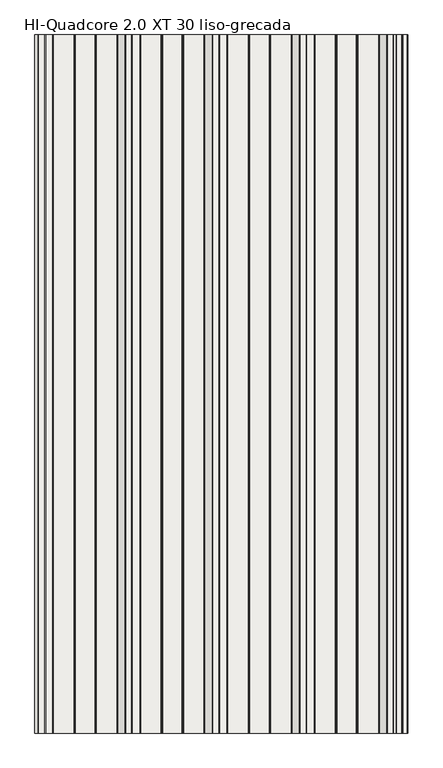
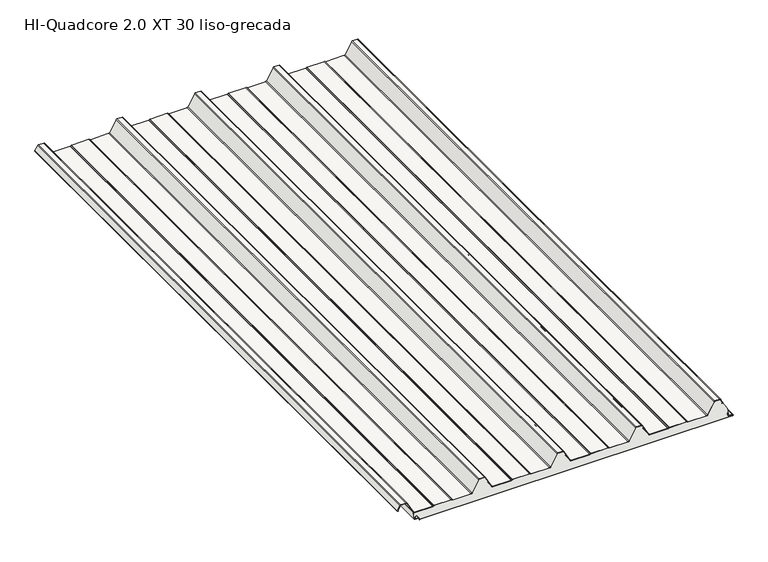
"""IFC4 building model written with IfcOpenShell, lengths in millimetres: slab geometry, HI_QuadCore2.0XT-XT DUAL : HI-Quadcore 2.0 XT 30 liso-grecada."""

from ifc_helpers import new_model, si_unit, point, frame, frame_2d, origin, place, context, project, spatial, polyline, circle_curve, trimmed, segment, composite_curve, outline, extrude, source, transform, mapped, element, save
from ifc_brep_helpers import plane_surface, cylinder_surface, revolved_surface, advanced_brep


def hi_quadcore_2_0_xt_30_liso_grecada_d6f32195(model_context):
    return source(origin(), model_context, "Body", "SolidModel", [
        advanced_brep(
        [(1186.4313891, 0.0, 13.3795578), (1185.8456418, 0.0, 11.9654043), (1185.8456037, 0.0, 8.2995811), (1187.6996787, 0.0, 6.328543), (1198.1077232, 0.0, 5.5663871), (1199.9032632, 0.0, 3.5769209), (1199.9033076, 0.0, 1.9756011), (1201.903363, 0.0, -0.0243435), (2197.9162803, 0.0, 0.003269), (2199.9046779, 0.0, 2.0032908), (2199.904653, 0.0, 2.9012893), (2198.0077486, 0.0, 4.8985749), (2186.1928118, 0.0, 5.7933732), (2184.3438482, 0.0, 7.7876066), (2184.3437386, 0.0, 11.7402379), (2183.757913, 0.0, 13.1544352), (2182.3436602, 0.0, 14.5686095), (2181.7779748, 0.0, 14.0029241), (2183.1922433, 0.0, 12.5887341), (2183.5437386, 0.0, 11.7402157), (2183.5438482, 0.0, 7.7875844), (2186.1323972, 0.0, 4.9956577), (2197.958132, 0.0, 4.1000416), (2199.104653, 0.0, 2.9012672), (2199.1046779, 0.0, 2.0032686), (2197.9136554, 0.0, 0.8032689), (1201.9033408, 0.0, 0.7756565), (1200.7033076, 0.0, 1.9756233), (1200.7032632, 0.0, 3.5769431), (1198.1768616, 0.0, 6.3634663), (1187.7581044, 0.0, 7.1264067), (1186.6457428, 0.0, 8.3231689), (1186.6456418, 0.0, 11.965396), (1186.9970902, 0.0, 12.8138881), (1189.1032183, 0.0, 14.920133), (1188.5375329, 0.0, 15.4858184), (1186.4313891, 2000.0, 13.3795578), (1188.5375329, 2000.0, 15.4858184), (1189.1032183, 2000.0, 14.920133), (1186.9970902, 2000.0, 12.8138881), (1186.6456418, 2000.0, 11.965396), (1186.6456037, 2000.0, 8.2995728), (1187.7581044, 2000.0, 7.1264067), (1198.1768616, 2000.0, 6.3634663), (1200.7032632, 2000.0, 3.5769431), (1200.7033076, 2000.0, 1.9756233), (1201.9033408, 2000.0, 0.7756565), (2197.9136554, 2000.0, 0.8032689), (2199.1046779, 2000.0, 2.0032686), (2199.104653, 2000.0, 2.9012672), (2197.958132, 2000.0, 4.1000416), (2186.1323972, 2000.0, 4.9956577), (2183.5438482, 2000.0, 7.7875844), (2183.5437386, 2000.0, 11.7402157), (2183.1922433, 2000.0, 12.5887341), (2181.7779748, 2000.0, 14.0029241), (2182.3436602, 2000.0, 14.5686095), (2183.757913, 2000.0, 13.1544352), (2184.3437386, 2000.0, 11.7402379), (2184.3438482, 2000.0, 7.7876066), (2186.1928118, 2000.0, 5.7933732), (2198.0077486, 2000.0, 4.8985749), (2199.904653, 2000.0, 2.9012893), (2199.9046779, 2000.0, 2.0032908), (2197.9162803, 2000.0, 0.003269), (1201.903363, 2000.0, -0.0243435), (1199.9033076, 2000.0, 1.9756011), (1199.9032632, 2000.0, 3.5769209), (1198.1077232, 2000.0, 5.5663871), (1187.6996787, 2000.0, 6.328543), (1185.8457428, 2000.0, 8.3231467), (1185.8456418, 2000.0, 11.9654043)],
        [
            (0, 1, circle_curve(frame((1187.8456418, 0.0, 11.9653834), z_axis=(0.0, -1.0, 0.0), x_axis=(1.0, 0.0, 0.0)), 2.0)),
            (1, 2),
            (2, 3, circle_curve(frame((1187.8457428, 0.0, 8.3232022), z_axis=(0.0, -1.0, 0.0), x_axis=(1.0, 0.0, 0.0)), 2.0)),
            (3, 4),
            (4, 5, circle_curve(frame((1197.9032632, 0.0, 3.5768655), z_axis=(0.0, 1.0, 0.0), x_axis=(1.0, 0.0, 0.0)), 2.0)),
            (5, 6),
            (6, 7, circle_curve(frame((1201.9033076, 0.0, 1.9756565), z_axis=(0.0, -1.0, 0.0), x_axis=(1.0, 0.0, 0.0)), 2.0)),
            (7, 8),
            (8, 9, circle_curve(frame((2197.9046779, 0.0, 2.0032353), z_axis=(0.0, -1.0, 0.0), x_axis=(1.0, 0.0, 0.0)), 2.0)),
            (9, 10),
            (10, 11, circle_curve(frame((2197.904653, 0.0, 2.9012339), z_axis=(0.0, -1.0, 0.0), x_axis=(1.0, 0.0, 0.0)), 2.0)),
            (11, 12),
            (12, 13, circle_curve(frame((2186.3438482, 0.0, 7.7876621), z_axis=(0.0, 1.0, 0.0), x_axis=(1.0, 0.0, 0.0)), 2.0)),
            (13, 14),
            (14, 15, circle_curve(frame((2182.3437386, 0.0, 11.7401824), z_axis=(0.0, -1.0, 0.0), x_axis=(1.0, 0.0, 0.0)), 2.0)),
            (15, 16),
            (16, 17),
            (17, 18),
            (18, 19, circle_curve(frame((2182.3437386, 0.0, 11.7401824), z_axis=(0.0, 1.0, 0.0), x_axis=(1.0, 0.0, 0.0)), 1.2)),
            (19, 20),
            (20, 21, circle_curve(frame((2186.3438482, 0.0, 7.7876621), z_axis=(0.0, -1.0, 0.0), x_axis=(1.0, 0.0, 0.0)), 2.8)),
            (21, 22),
            (22, 23, circle_curve(frame((2197.904653, 0.0, 2.9012339), z_axis=(0.0, 1.0, 0.0), x_axis=(1.0, 0.0, 0.0)), 1.2)),
            (23, 24),
            (24, 25, circle_curve(frame((2197.9046779, 0.0, 2.0032353), z_axis=(0.0, 1.0, 0.0), x_axis=(1.0, 0.0, 0.0)), 1.2)),
            (25, 26),
            (26, 27, circle_curve(frame((1201.9033076, 0.0, 1.9756565), z_axis=(0.0, 1.0, 0.0), x_axis=(1.0, 0.0, 0.0)), 1.2)),
            (27, 28),
            (28, 29, circle_curve(frame((1197.9032632, 0.0, 3.5768655), z_axis=(0.0, -1.0, 0.0), x_axis=(1.0, 0.0, 0.0)), 2.8)),
            (29, 30),
            (30, 31, circle_curve(frame((1187.8457428, 0.0, 8.3232022), z_axis=(0.0, 1.0, 0.0), x_axis=(1.0, 0.0, 0.0)), 1.2)),
            (31, 32),
            (32, 33, circle_curve(frame((1187.8456418, 0.0, 11.9653834), z_axis=(0.0, 1.0, 0.0), x_axis=(1.0, 0.0, 0.0)), 1.2)),
            (33, 34),
            (34, 35),
            (35, 0),
            (36, 37),
            (37, 38),
            (38, 39),
            (39, 40, circle_curve(frame((1187.8456418, 2000.0, 11.9653834), z_axis=(0.0, -1.0, 0.0), x_axis=(1.0, 0.0, 0.0)), 1.2)),
            (40, 41),
            (41, 42, circle_curve(frame((1187.8457428, 2000.0, 8.3232022), z_axis=(0.0, -1.0, 0.0), x_axis=(1.0, 0.0, 0.0)), 1.2)),
            (42, 43),
            (43, 44, circle_curve(frame((1197.9032632, 2000.0, 3.5768655), z_axis=(0.0, 1.0, 0.0), x_axis=(1.0, 0.0, 0.0)), 2.8)),
            (44, 45),
            (45, 46, circle_curve(frame((1201.9033076, 2000.0, 1.9756565), z_axis=(0.0, -1.0, 0.0), x_axis=(1.0, 0.0, 0.0)), 1.2)),
            (46, 47),
            (47, 48, circle_curve(frame((2197.9046779, 2000.0, 2.0032353), z_axis=(0.0, -1.0, 0.0), x_axis=(1.0, 0.0, 0.0)), 1.2)),
            (48, 49),
            (49, 50, circle_curve(frame((2197.904653, 2000.0, 2.9012339), z_axis=(0.0, -1.0, 0.0), x_axis=(1.0, 0.0, 0.0)), 1.2)),
            (50, 51),
            (51, 52, circle_curve(frame((2186.3438482, 2000.0, 7.7876621), z_axis=(0.0, 1.0, 0.0), x_axis=(1.0, 0.0, 0.0)), 2.8)),
            (52, 53),
            (53, 54, circle_curve(frame((2182.3437386, 2000.0, 11.7401824), z_axis=(0.0, -1.0, 0.0), x_axis=(1.0, 0.0, 0.0)), 1.2)),
            (54, 55),
            (55, 56),
            (56, 57),
            (57, 58, circle_curve(frame((2182.3437386, 2000.0, 11.7401824), z_axis=(0.0, 1.0, 0.0), x_axis=(1.0, 0.0, 0.0)), 2.0)),
            (58, 59),
            (59, 60, circle_curve(frame((2186.3438482, 2000.0, 7.7876621), z_axis=(0.0, -1.0, 0.0), x_axis=(1.0, 0.0, 0.0)), 2.0)),
            (60, 61),
            (61, 62, circle_curve(frame((2197.904653, 2000.0, 2.9012339), z_axis=(0.0, 1.0, 0.0), x_axis=(1.0, 0.0, 0.0)), 2.0)),
            (62, 63),
            (63, 64, circle_curve(frame((2197.9046779, 2000.0, 2.0032353), z_axis=(0.0, 1.0, 0.0), x_axis=(1.0, 0.0, 0.0)), 2.0)),
            (64, 65),
            (65, 66, circle_curve(frame((1201.9033076, 2000.0, 1.9756565), z_axis=(0.0, 1.0, 0.0), x_axis=(1.0, 0.0, 0.0)), 2.0)),
            (66, 67),
            (67, 68, circle_curve(frame((1197.9032632, 2000.0, 3.5768655), z_axis=(0.0, -1.0, 0.0), x_axis=(1.0, 0.0, 0.0)), 2.0)),
            (68, 69),
            (69, 70, circle_curve(frame((1187.8457428, 2000.0, 8.3232022), z_axis=(0.0, 1.0, 0.0), x_axis=(1.0, 0.0, 0.0)), 2.0)),
            (70, 71),
            (71, 36, circle_curve(frame((1187.8456418, 2000.0, 11.9653834), z_axis=(0.0, 1.0, 0.0), x_axis=(1.0, 0.0, 0.0)), 2.0)),
            (0, 36),
            (71, 1),
            (70, 2),
            (69, 3),
            (68, 4),
            (67, 5),
            (66, 6),
            (65, 7),
            (64, 8),
            (63, 9),
            (62, 10),
            (61, 11),
            (60, 12),
            (59, 13),
            (58, 14),
            (57, 15),
            (56, 16),
            (55, 17),
            (54, 18),
            (53, 19),
            (52, 20),
            (51, 21),
            (50, 22),
            (49, 23),
            (48, 24),
            (47, 25),
            (46, 26),
            (45, 27),
            (44, 28),
            (43, 29),
            (42, 30),
            (41, 31),
            (40, 32),
            (39, 33),
            (38, 34),
            (37, 35),
        ],
        [
            plane_surface(frame((1189.8456418, 0.0, 11.9653834), z_axis=(0.0, -1.0, 0.0), x_axis=(0.0, 0.0, 1.0))),
            plane_surface(frame((1189.8456418, 2000.0, 11.9653834), z_axis=(0.0, 1.0, 0.0), x_axis=(0.0, 0.0, -1.0))),
            cylinder_surface(frame((1187.8456418, 2000.0, 11.9653834), z_axis=(0.0, -1.0, 0.0), x_axis=(1.0, 0.0, 0.0)), 2.0),
            plane_surface(frame((1185.8456418, 0.0, 11.9654043), z_axis=(-0.9999999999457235, 0.0, 1.041887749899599e-05), x_axis=(0.0, 1.0, 0.0))),
            cylinder_surface(frame((1187.8457428, 2000.0, 8.3232022), z_axis=(0.0, -1.0, 0.0), x_axis=(1.0, 0.0, 0.0)), 2.0),
            plane_surface(frame((1187.6996787, 0.0, 6.328543), z_axis=(-0.07303203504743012, 0.0, -0.9973295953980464), x_axis=(0.0, 1.0, 0.0))),
            revolved_surface(polyline([(1199.9032632, 2000.0, 3.5768655), (1199.9032632, 0.0, 3.5768655)]), (1197.9032632, 2000.0, 3.5768655), (0.0, 1.0, 0.0)),
            plane_surface(frame((1199.9032632, 0.0, 3.5769209), z_axis=(-0.9999999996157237, 0.0, -2.7722781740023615e-05), x_axis=(0.0, 1.0, 0.0))),
            cylinder_surface(frame((1201.9033076, 2000.0, 1.9756565), z_axis=(0.0, -1.0, 0.0), x_axis=(1.0, 0.0, 0.0)), 2.0),
            plane_surface(frame((1201.903363, 0.0, -0.0243435), z_axis=(2.772298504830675e-05, 0.0, -0.9999999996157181), x_axis=(0.0, 1.0, 0.0))),
            cylinder_surface(frame((2197.9046779, 2000.0, 2.0032353), z_axis=(0.0, -1.0, 0.0), x_axis=(1.0, 0.0, 0.0)), 2.0),
            plane_surface(frame((2199.9046779, 0.0, 2.0032908), z_axis=(0.9999999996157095, 0.0, 2.7723295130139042e-05), x_axis=(0.0, 1.0, 0.0))),
            cylinder_surface(frame((2197.904653, 2000.0, 2.9012339), z_axis=(0.0, -1.0, 0.0), x_axis=(1.0, 0.0, 0.0)), 2.0),
            plane_surface(frame((2198.0077486, 0.0, 4.8985749), z_axis=(0.07551822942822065, 0.0, 0.9971444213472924), x_axis=(0.0, 1.0, 0.0))),
            revolved_surface(polyline([(2188.3438482, 2000.0, 7.7876621), (2188.3438482, 0.0, 7.7876621)]), (2186.3438482, 2000.0, 7.7876621), (0.0, 1.0, 0.0)),
            plane_surface(frame((2184.3438482, 0.0, 7.7876066), z_axis=(0.9999999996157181, 0.0, 2.7722984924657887e-05), x_axis=(0.0, 1.0, 0.0))),
            cylinder_surface(frame((2182.3437386, 2000.0, 11.7401824), z_axis=(0.0, -1.0, 0.0), x_axis=(1.0, 0.0, 0.0)), 2.0),
            plane_surface(frame((2183.757913, 0.0, 13.1544352), z_axis=(0.7070871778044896, 0.0, 0.7071263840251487), x_axis=(0.0, 1.0, 0.0))),
            plane_surface(frame((2182.3436602, 0.0, 14.5686095), z_axis=(-0.7071067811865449, 0.0, 0.7071067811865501), x_axis=(0.0, 1.0, 0.0))),
            plane_surface(frame((2181.7779748, 0.0, 14.0029241), z_axis=(-0.7070871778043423, 0.0, -0.707126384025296), x_axis=(0.0, 1.0, 0.0))),
            revolved_surface(polyline([(2183.5437386, 2000.0, 11.7401824), (2183.5437386, 0.0, 11.7401824)]), (2182.3437386, 2000.0, 11.7401824), (0.0, 1.0, 0.0)),
            plane_surface(frame((2183.5437386, 0.0, 11.7402157), z_axis=(-0.9999999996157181, 0.0, -2.7722985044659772e-05), x_axis=(0.0, 1.0, 0.0))),
            cylinder_surface(frame((2186.3438482, 2000.0, 7.7876621), z_axis=(0.0, -1.0, 0.0), x_axis=(1.0, 0.0, 0.0)), 2.8),
            plane_surface(frame((2186.1323972, 0.0, 4.9956577), z_axis=(-0.07551822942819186, 0.0, -0.9971444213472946), x_axis=(0.0, 1.0, 0.0))),
            revolved_surface(polyline([(2199.104653, 2000.0, 2.9012339), (2199.104653, 0.0, 2.9012339)]), (2197.904653, 2000.0, 2.9012339), (0.0, 1.0, 0.0)),
            plane_surface(frame((2199.104653, 0.0, 2.9012672), z_axis=(-0.9999999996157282, 0.0, -2.7722622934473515e-05), x_axis=(0.0, 1.0, 0.0))),
            revolved_surface(polyline([(2199.1046779, 2000.0, 2.0032353), (2199.1046779, 0.0, 2.0032353)]), (2197.9046779, 2000.0, 2.0032353), (0.0, 1.0, 0.0)),
            plane_surface(frame((2197.9136554, 0.0, 0.8032689), z_axis=(-2.7722985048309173e-05, 0.0, 0.9999999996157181), x_axis=(0.0, 1.0, 0.0))),
            revolved_surface(polyline([(1203.1033076, 2000.0, 1.9756565), (1203.1033076, 0.0, 1.9756565)]), (1201.9033076, 2000.0, 1.9756565), (0.0, 1.0, 0.0)),
            plane_surface(frame((1200.7033076, 0.0, 1.9756233), z_axis=(0.9999999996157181, 0.0, 2.7722983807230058e-05), x_axis=(0.0, 1.0, 0.0))),
            cylinder_surface(frame((1197.9032632, 2000.0, 3.5768655), z_axis=(0.0, -1.0, 0.0), x_axis=(1.0, 0.0, 0.0)), 2.8),
            plane_surface(frame((1198.1768616, 0.0, 6.3634663), z_axis=(0.0730320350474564, 0.0, 0.9973295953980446), x_axis=(0.0, 1.0, 0.0))),
            revolved_surface(polyline([(1189.0457428, 2000.0, 8.3232022), (1189.0457428, 0.0, 8.3232022)]), (1187.8457428, 2000.0, 8.3232022), (0.0, 1.0, 0.0)),
            plane_surface(frame((1186.6456037, 0.0, 8.2995728), z_axis=(0.9999999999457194, 0.0, -1.0419274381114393e-05), x_axis=(0.0, 1.0, 0.0))),
            revolved_surface(polyline([(1189.0456418, 2000.0, 11.9653834), (1189.0456418, 0.0, 11.9653834)]), (1187.8456418, 2000.0, 11.9653834), (0.0, 1.0, 0.0)),
            plane_surface(frame((1186.9970902, 0.0, 12.8138881), z_axis=(0.7071263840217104, 0.0, -0.7070871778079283), x_axis=(0.0, 1.0, 0.0))),
            plane_surface(frame((1189.1032183, 0.0, 14.920133), z_axis=(0.7071067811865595, 0.0, 0.7071067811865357), x_axis=(0.0, 1.0, 0.0))),
            plane_surface(frame((1188.5375329, 0.0, 15.4858184), z_axis=(-0.7071263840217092, 0.0, 0.7070871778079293), x_axis=(0.0, 1.0, 0.0))),
        ],
        [
            (0, [[1, 2, 3, 4, 5, 6, 7, 8, 9, 10, 11, 12, 13, 14, 15, 16, 17, 18, 19, 20, 21, 22, 23, 24, 25, 26, 27, 28, 29, 30, 31, 32, 33, 34, 35, 36]]),
            (1, [[37, 38, 39, 40, 41, 42, 43, 44, 45, 46, 47, 48, 49, 50, 51, 52, 53, 54, 55, 56, 57, 58, 59, 60, 61, 62, 63, 64, 65, 66, 67, 68, 69, 70, 71, 72]]),
            (2, [[-1, 73, -72, 74]]),
            (3, [[-2, -74, -71, 75]]),
            (4, [[-3, -75, -70, 76]]),
            (5, [[-4, -76, -69, 77]]),
            (6, [[-5, -77, -68, 78]]),
            (7, [[-6, -78, -67, 79]]),
            (8, [[-7, -79, -66, 80]]),
            (9, [[-8, -80, -65, 81]]),
            (10, [[-9, -81, -64, 82]]),
            (11, [[-10, -82, -63, 83]]),
            (12, [[-11, -83, -62, 84]]),
            (13, [[-12, -84, -61, 85]]),
            (14, [[-13, -85, -60, 86]]),
            (15, [[-14, -86, -59, 87]]),
            (16, [[-15, -87, -58, 88]]),
            (17, [[-16, -88, -57, 89]]),
            (18, [[-17, -89, -56, 90]]),
            (19, [[-18, -90, -55, 91]]),
            (20, [[-19, -91, -54, 92]]),
            (21, [[-20, -92, -53, 93]]),
            (22, [[-21, -93, -52, 94]]),
            (23, [[-22, -94, -51, 95]]),
            (24, [[-23, -95, -50, 96]]),
            (25, [[-24, -96, -49, 97]]),
            (26, [[-25, -97, -48, 98]]),
            (27, [[-26, -98, -47, 99]]),
            (28, [[-27, -99, -46, 100]]),
            (29, [[-28, -100, -45, 101]]),
            (30, [[-29, -101, -44, 102]]),
            (31, [[-30, -102, -43, 103]]),
            (32, [[-31, -103, -42, 104]]),
            (33, [[-32, -104, -41, 105]]),
            (34, [[-33, -105, -40, 106]]),
            (35, [[-34, -106, -39, 107]]),
            (36, [[-35, -107, -38, 108]]),
            (37, [[-36, -108, -37, -73]]),
        ],
    ),
        extrude(outline(composite_curve([segment(polyline([(68.1649405, 1138.5141429), (53.6579587, 1130.3539656)]), True, "CONTINUOUS"), segment(trimmed(circle_curve(frame_2d((53.0451321, 1131.443435)), 1.25), [point((53.6579587, 1130.3539656))], [point((52.689225, 1132.6416963))], False, "CARTESIAN"), True, "CONTINUOUS"), segment(polyline([(52.689225, 1132.6416963), (55.7359115, 1133.437141), (55.9380053, 1132.663088), (52.9074492, 1131.8718547)]), True, "CONTINUOUS"), segment(trimmed(circle_curve(frame_2d((53.0451321, 1131.443435)), 0.45), [point((52.9074492, 1131.8718547))], [point((53.2657497, 1131.051226))], True, "CARTESIAN"), True, "CONTINUOUS"), segment(polyline([(53.2657497, 1131.051226), (67.7727315, 1139.2114033)]), True, "CONTINUOUS"), segment(trimmed(circle_curve(frame_2d((66.4, 1141.6518148)), 2.8), [point((67.7727315, 1139.2114033))], [point((69.2, 1141.6518148))], True, "CARTESIAN"), True, "CONTINUOUS"), segment(polyline([(69.2, 1141.6518148), (69.2, 1158.9311117)]), True, "CONTINUOUS"), segment(trimmed(circle_curve(frame_2d((66.4, 1158.9311117)), 2.8), [point((69.2, 1158.9311117))], [point((67.5457267, 1161.4859719))], True, "CARTESIAN"), True, "CONTINUOUS"), segment(polyline([(67.5457267, 1161.4859719), (31.2048889, 1181.3052775)]), True, "CONTINUOUS"), segment(trimmed(circle_curve(frame_2d((33.0, 1184.6545425)), 3.8), [point((31.2048889, 1181.3052775))], [point((29.2, 1184.6545425))], False, "CARTESIAN"), True, "CONTINUOUS"), segment(polyline([(29.2, 1184.6545425), (29.2, 1242.4489557)]), True, "CONTINUOUS"), segment(trimmed(circle_curve(frame_2d((33.0, 1242.4489557)), 3.8), [point((29.2, 1242.4489557))], [point((29.6973596, 1244.328468))], False, "CARTESIAN"), True, "CONTINUOUS"), segment(polyline([(29.6973596, 1244.328468), (30.912055, 1246.4629056)]), True, "CONTINUOUS"), segment(trimmed(circle_curve(frame_2d((29.0, 1247.5510443)), 2.2), [point((30.912055, 1246.4629056))], [point((31.2, 1247.5510443))], True, "CARTESIAN"), True, "CONTINUOUS"), segment(polyline([(31.2, 1247.5510443), (31.2, 1302.4489557)]), True, "CONTINUOUS"), segment(trimmed(circle_curve(frame_2d((29.0, 1302.4489557)), 2.2), [point((31.2, 1302.4489557))], [point((30.912055, 1303.5370944))], True, "CARTESIAN"), True, "CONTINUOUS"), segment(polyline([(30.912055, 1303.5370944), (29.6973596, 1305.671532)]), True, "CONTINUOUS"), segment(trimmed(circle_curve(frame_2d((33.0, 1307.5510443)), 3.8), [point((29.6973596, 1305.671532))], [point((29.2, 1307.5510443))], False, "CARTESIAN"), True, "CONTINUOUS"), segment(polyline([(29.2, 1307.5510443), (29.2, 1365.7454575)]), True, "CONTINUOUS"), segment(trimmed(circle_curve(frame_2d((33.0, 1365.7454575)), 3.8), [point((29.2, 1365.7454575))], [point((31.1370073, 1369.0574446))], False, "CARTESIAN"), True, "CONTINUOUS"), segment(polyline([(31.1370073, 1369.0574446), (68.0785747, 1389.8370763)]), True, "CONTINUOUS"), segment(trimmed(circle_curve(frame_2d((67.0, 1391.7545425)), 2.2), [point((68.0785747, 1389.8370763))], [point((69.2, 1391.7545425))], True, "CARTESIAN"), True, "CONTINUOUS"), segment(polyline([(69.2, 1391.7545425), (69.2, 1408.2454575)]), True, "CONTINUOUS"), segment(trimmed(circle_curve(frame_2d((67.0, 1408.2454575)), 2.2), [point((69.2, 1408.2454575))], [point((68.0785747, 1410.1629237))], True, "CARTESIAN"), True, "CONTINUOUS"), segment(polyline([(68.0785747, 1410.1629237), (31.1370073, 1430.9425554)]), True, "CONTINUOUS"), segment(trimmed(circle_curve(frame_2d((33.0, 1434.2545425)), 3.8), [point((31.1370073, 1430.9425554))], [point((29.2, 1434.2545425))], False, "CARTESIAN"), True, "CONTINUOUS"), segment(polyline([(29.2, 1434.2545425), (29.2, 1492.4489557)]), True, "CONTINUOUS"), segment(trimmed(circle_curve(frame_2d((33.0, 1492.4489557)), 3.8), [point((29.2, 1492.4489557))], [point((29.6973596, 1494.328468))], False, "CARTESIAN"), True, "CONTINUOUS"), segment(polyline([(29.6973596, 1494.328468), (30.912055, 1496.4629056)]), True, "CONTINUOUS"), segment(trimmed(circle_curve(frame_2d((29.0, 1497.5510443)), 2.2), [point((30.912055, 1496.4629056))], [point((31.2, 1497.5510443))], True, "CARTESIAN"), True, "CONTINUOUS"), segment(polyline([(31.2, 1497.5510443), (31.2, 1552.4489557)]), True, "CONTINUOUS"), segment(trimmed(circle_curve(frame_2d((29.0, 1552.4489557)), 2.2), [point((31.2, 1552.4489557))], [point((30.912055, 1553.5370944))], True, "CARTESIAN"), True, "CONTINUOUS"), segment(polyline([(30.912055, 1553.5370944), (29.6973596, 1555.671532)]), True, "CONTINUOUS"), segment(trimmed(circle_curve(frame_2d((33.0, 1557.5510443)), 3.8), [point((29.6973596, 1555.671532))], [point((29.2, 1557.5510443))], False, "CARTESIAN"), True, "CONTINUOUS"), segment(polyline([(29.2, 1557.5510443), (29.2, 1615.7454575)]), True, "CONTINUOUS"), segment(trimmed(circle_curve(frame_2d((33.0, 1615.7454575)), 3.8), [point((29.2, 1615.7454575))], [point((31.1370073, 1619.0574446))], False, "CARTESIAN"), True, "CONTINUOUS"), segment(polyline([(31.1370073, 1619.0574446), (68.0785747, 1639.8370763)]), True, "CONTINUOUS"), segment(trimmed(circle_curve(frame_2d((67.0, 1641.7545425)), 2.2), [point((68.0785747, 1639.8370763))], [point((69.2, 1641.7545425))], True, "CARTESIAN"), True, "CONTINUOUS"), segment(polyline([(69.2, 1641.7545425), (69.2, 1658.2454575)]), True, "CONTINUOUS"), segment(trimmed(circle_curve(frame_2d((67.0, 1658.2454575)), 2.2), [point((69.2, 1658.2454575))], [point((68.0785747, 1660.1629237))], True, "CARTESIAN"), True, "CONTINUOUS"), segment(polyline([(68.0785747, 1660.1629237), (31.1370073, 1680.9425554)]), True, "CONTINUOUS"), segment(trimmed(circle_curve(frame_2d((33.0, 1684.2545425)), 3.8), [point((31.1370073, 1680.9425554))], [point((29.2, 1684.2545425))], False, "CARTESIAN"), True, "CONTINUOUS"), segment(polyline([(29.2, 1684.2545425), (29.2, 1742.4489557)]), True, "CONTINUOUS"), segment(trimmed(circle_curve(frame_2d((33.0, 1742.4489557)), 3.8), [point((29.2, 1742.4489557))], [point((29.6973596, 1744.328468))], False, "CARTESIAN"), True, "CONTINUOUS"), segment(polyline([(29.6973596, 1744.328468), (30.912055, 1746.4629056)]), True, "CONTINUOUS"), segment(trimmed(circle_curve(frame_2d((29.0, 1747.5510443)), 2.2), [point((30.912055, 1746.4629056))], [point((31.2, 1747.5510443))], True, "CARTESIAN"), True, "CONTINUOUS"), segment(polyline([(31.2, 1747.5510443), (31.2, 1802.4489557)]), True, "CONTINUOUS"), segment(trimmed(circle_curve(frame_2d((29.0, 1802.4489557)), 2.2), [point((31.2, 1802.4489557))], [point((30.912055, 1803.5370944))], True, "CARTESIAN"), True, "CONTINUOUS"), segment(polyline([(30.912055, 1803.5370944), (29.6973596, 1805.671532)]), True, "CONTINUOUS"), segment(trimmed(circle_curve(frame_2d((33.0, 1807.5510443)), 3.8), [point((29.6973596, 1805.671532))], [point((29.2, 1807.5510443))], False, "CARTESIAN"), True, "CONTINUOUS"), segment(polyline([(29.2, 1807.5510443), (29.2, 1865.7454575)]), True, "CONTINUOUS"), segment(trimmed(circle_curve(frame_2d((33.0, 1865.7454575)), 3.8), [point((29.2, 1865.7454575))], [point((31.1370073, 1869.0574446))], False, "CARTESIAN"), True, "CONTINUOUS"), segment(polyline([(31.1370073, 1869.0574446), (68.0785747, 1889.8370763)]), True, "CONTINUOUS"), segment(trimmed(circle_curve(frame_2d((67.0, 1891.7545425)), 2.2), [point((68.0785747, 1889.8370763))], [point((69.2, 1891.7545425))], True, "CARTESIAN"), True, "CONTINUOUS"), segment(polyline([(69.2, 1891.7545425), (69.2, 1908.2454575)]), True, "CONTINUOUS"), segment(trimmed(circle_curve(frame_2d((67.0, 1908.2454575)), 2.2), [point((69.2, 1908.2454575))], [point((68.0785747, 1910.1629237))], True, "CARTESIAN"), True, "CONTINUOUS"), segment(polyline([(68.0785747, 1910.1629237), (31.1370073, 1930.9425554)]), True, "CONTINUOUS"), segment(trimmed(circle_curve(frame_2d((33.0, 1934.2545425)), 3.8), [point((31.1370073, 1930.9425554))], [point((29.2, 1934.2545425))], False, "CARTESIAN"), True, "CONTINUOUS"), segment(polyline([(29.2, 1934.2545425), (29.2, 1992.4489557)]), True, "CONTINUOUS"), segment(trimmed(circle_curve(frame_2d((33.0, 1992.4489557)), 3.8), [point((29.2, 1992.4489557))], [point((29.6973596, 1994.328468))], False, "CARTESIAN"), True, "CONTINUOUS"), segment(polyline([(29.6973596, 1994.328468), (30.912055, 1996.4629056)]), True, "CONTINUOUS"), segment(trimmed(circle_curve(frame_2d((29.0, 1997.5510443)), 2.2), [point((30.912055, 1996.4629056))], [point((31.2, 1997.5510443))], True, "CARTESIAN"), True, "CONTINUOUS"), segment(polyline([(31.2, 1997.5510443), (31.2, 2052.4489557)]), True, "CONTINUOUS"), segment(trimmed(circle_curve(frame_2d((29.0, 2052.4489557)), 2.2), [point((31.2, 2052.4489557))], [point((30.912055, 2053.5370944))], True, "CARTESIAN"), True, "CONTINUOUS"), segment(polyline([(30.912055, 2053.5370944), (29.6973596, 2055.671532)]), True, "CONTINUOUS"), segment(trimmed(circle_curve(frame_2d((33.0, 2057.5510443)), 3.8), [point((29.6973596, 2055.671532))], [point((29.2, 2057.5510443))], False, "CARTESIAN"), True, "CONTINUOUS"), segment(polyline([(29.2, 2057.5510443), (29.2, 2116.4208923)]), True, "CONTINUOUS"), segment(trimmed(circle_curve(frame_2d((33.0, 2116.4208923)), 3.8), [point((29.2, 2116.4208923))], [point((31.1583504, 2119.7447946))], False, "CARTESIAN"), True, "CONTINUOUS"), segment(polyline([(31.1583504, 2119.7447946), (68.0662182, 2140.1940602)]), True, "CONTINUOUS"), segment(trimmed(circle_curve(frame_2d((67.0, 2142.1184247)), 2.2), [point((68.0662182, 2140.1940602))], [point((69.2, 2142.1184247))], True, "CARTESIAN"), True, "CONTINUOUS"), segment(polyline([(69.2, 2142.1184247), (69.2, 2157.4945491)]), True, "CONTINUOUS"), segment(trimmed(circle_curve(frame_2d((67.0, 2157.4945491)), 2.2), [point((69.2, 2157.4945491))], [point((68.0785747, 2159.4120152))], True, "CARTESIAN"), True, "CONTINUOUS"), segment(polyline([(68.0785747, 2159.4120152), (57.5275176, 2165.3469849)]), True, "CONTINUOUS"), segment(trimmed(circle_curve(frame_2d((56.9392041, 2164.3010942)), 1.2), [point((57.5275176, 2165.3469849))], [point((56.3392623, 2165.3403583))], True, "CARTESIAN"), True, "CONTINUOUS"), segment(polyline([(56.3392623, 2165.3403583), (54.7281681, 2164.4103128), (54.3282068, 2165.1031555), (55.939301, 2166.033201)]), True, "CONTINUOUS"), segment(trimmed(circle_curve(frame_2d((56.9392041, 2164.3010942)), 2.0), [point((55.939301, 2166.033201))], [point((57.9197266, 2166.0442453))], False, "CARTESIAN"), True, "CONTINUOUS"), segment(polyline([(57.9197266, 2166.0442453), (68.4707837, 2160.1092757)]), True, "CONTINUOUS"), segment(trimmed(circle_curve(frame_2d((67.0, 2157.4945491)), 3.0), [point((68.4707837, 2160.1092757))], [point((70.0, 2157.4945491))], False, "CARTESIAN"), True, "CONTINUOUS"), segment(polyline([(70.0, 2157.4945491), (70.0, 2142.1184247)]), True, "CONTINUOUS"), segment(trimmed(circle_curve(frame_2d((67.0, 2142.1184247)), 3.0), [point((70.0, 2142.1184247))], [point((68.4539339, 2139.4942913))], False, "CARTESIAN"), True, "CONTINUOUS"), segment(polyline([(68.4539339, 2139.4942913), (31.5460661, 2119.0450257)]), True, "CONTINUOUS"), segment(trimmed(circle_curve(frame_2d((33.0, 2116.4208923)), 3.0), [point((31.5460661, 2119.0450257))], [point((30.0, 2116.4208923))], True, "CARTESIAN"), True, "CONTINUOUS"), segment(polyline([(30.0, 2116.4208923), (30.0, 2057.5510443)]), True, "CONTINUOUS"), segment(trimmed(circle_curve(frame_2d((33.0, 2057.5510443)), 3.0), [point((30.0, 2057.5510443))], [point((30.3926523, 2056.0672188))], True, "CARTESIAN"), True, "CONTINUOUS"), segment(polyline([(30.3926523, 2056.0672188), (31.6073477, 2053.9327812)]), True, "CONTINUOUS"), segment(trimmed(circle_curve(frame_2d((29.0, 2052.4489557)), 3.0), [point((31.6073477, 2053.9327812))], [point((32.0, 2052.4489557))], False, "CARTESIAN"), True, "CONTINUOUS"), segment(polyline([(32.0, 2052.4489557), (32.0, 1997.5510443)]), True, "CONTINUOUS"), segment(trimmed(circle_curve(frame_2d((29.0, 1997.5510443)), 3.0), [point((32.0, 1997.5510443))], [point((31.6073477, 1996.0672188))], False, "CARTESIAN"), True, "CONTINUOUS"), segment(polyline([(31.6073477, 1996.0672188), (30.3926523, 1993.9327812)]), True, "CONTINUOUS"), segment(trimmed(circle_curve(frame_2d((33.0, 1992.4489557)), 3.0), [point((30.3926523, 1993.9327812))], [point((30.0, 1992.4489557))], True, "CARTESIAN"), True, "CONTINUOUS"), segment(polyline([(30.0, 1992.4489557), (30.0, 1934.2545425)]), True, "CONTINUOUS"), segment(trimmed(circle_curve(frame_2d((33.0, 1934.2545425)), 3.0), [point((30.0, 1934.2545425))], [point((31.5292163, 1931.6398158))], True, "CARTESIAN"), True, "CONTINUOUS"), segment(polyline([(31.5292163, 1931.6398158), (68.4707837, 1910.8601842)]), True, "CONTINUOUS"), segment(trimmed(circle_curve(frame_2d((67.0, 1908.2454575)), 3.0), [point((68.4707837, 1910.8601842))], [point((70.0, 1908.2454575))], False, "CARTESIAN"), True, "CONTINUOUS"), segment(polyline([(70.0, 1908.2454575), (70.0, 1891.7545425)]), True, "CONTINUOUS"), segment(trimmed(circle_curve(frame_2d((67.0, 1891.7545425)), 3.0), [point((70.0, 1891.7545425))], [point((68.4707837, 1889.1398158))], False, "CARTESIAN"), True, "CONTINUOUS"), segment(polyline([(68.4707837, 1889.1398158), (31.5292163, 1868.3601842)]), True, "CONTINUOUS"), segment(trimmed(circle_curve(frame_2d((33.0, 1865.7454575)), 3.0), [point((31.5292163, 1868.3601842))], [point((30.0, 1865.7454575))], True, "CARTESIAN"), True, "CONTINUOUS"), segment(polyline([(30.0, 1865.7454575), (30.0, 1807.5510443)]), True, "CONTINUOUS"), segment(trimmed(circle_curve(frame_2d((33.0, 1807.5510443)), 3.0), [point((30.0, 1807.5510443))], [point((30.3926523, 1806.0672188))], True, "CARTESIAN"), True, "CONTINUOUS"), segment(polyline([(30.3926523, 1806.0672188), (31.6073477, 1803.9327812)]), True, "CONTINUOUS"), segment(trimmed(circle_curve(frame_2d((29.0, 1802.4489557)), 3.0), [point((31.6073477, 1803.9327812))], [point((32.0, 1802.4489557))], False, "CARTESIAN"), True, "CONTINUOUS"), segment(polyline([(32.0, 1802.4489557), (32.0, 1747.5510443)]), True, "CONTINUOUS"), segment(trimmed(circle_curve(frame_2d((29.0, 1747.5510443)), 3.0), [point((32.0, 1747.5510443))], [point((31.6073477, 1746.0672188))], False, "CARTESIAN"), True, "CONTINUOUS"), segment(polyline([(31.6073477, 1746.0672188), (30.3926523, 1743.9327812)]), True, "CONTINUOUS"), segment(trimmed(circle_curve(frame_2d((33.0, 1742.4489557)), 3.0), [point((30.3926523, 1743.9327812))], [point((30.0, 1742.4489557))], True, "CARTESIAN"), True, "CONTINUOUS"), segment(polyline([(30.0, 1742.4489557), (30.0, 1684.2545425)]), True, "CONTINUOUS"), segment(trimmed(circle_curve(frame_2d((33.0, 1684.2545425)), 3.0), [point((30.0, 1684.2545425))], [point((31.5292163, 1681.6398158))], True, "CARTESIAN"), True, "CONTINUOUS"), segment(polyline([(31.5292163, 1681.6398158), (68.4707837, 1660.8601842)]), True, "CONTINUOUS"), segment(trimmed(circle_curve(frame_2d((67.0, 1658.2454575)), 3.0), [point((68.4707837, 1660.8601842))], [point((70.0, 1658.2454575))], False, "CARTESIAN"), True, "CONTINUOUS"), segment(polyline([(70.0, 1658.2454575), (70.0, 1641.7545425)]), True, "CONTINUOUS"), segment(trimmed(circle_curve(frame_2d((67.0, 1641.7545425)), 3.0), [point((70.0, 1641.7545425))], [point((68.4707837, 1639.1398158))], False, "CARTESIAN"), True, "CONTINUOUS"), segment(polyline([(68.4707837, 1639.1398158), (31.5292163, 1618.3601842)]), True, "CONTINUOUS"), segment(trimmed(circle_curve(frame_2d((33.0, 1615.7454575)), 3.0), [point((31.5292163, 1618.3601842))], [point((30.0, 1615.7454575))], True, "CARTESIAN"), True, "CONTINUOUS"), segment(polyline([(30.0, 1615.7454575), (30.0, 1557.5510443)]), True, "CONTINUOUS"), segment(trimmed(circle_curve(frame_2d((33.0, 1557.5510443)), 3.0), [point((30.0, 1557.5510443))], [point((30.3926523, 1556.0672188))], True, "CARTESIAN"), True, "CONTINUOUS"), segment(polyline([(30.3926523, 1556.0672188), (31.6073477, 1553.9327812)]), True, "CONTINUOUS"), segment(trimmed(circle_curve(frame_2d((29.0, 1552.4489557)), 3.0), [point((31.6073477, 1553.9327812))], [point((32.0, 1552.4489557))], False, "CARTESIAN"), True, "CONTINUOUS"), segment(polyline([(32.0, 1552.4489557), (32.0, 1497.5510443)]), True, "CONTINUOUS"), segment(trimmed(circle_curve(frame_2d((29.0, 1497.5510443)), 3.0), [point((32.0, 1497.5510443))], [point((31.6073477, 1496.0672188))], False, "CARTESIAN"), True, "CONTINUOUS"), segment(polyline([(31.6073477, 1496.0672188), (30.3926523, 1493.9327812)]), True, "CONTINUOUS"), segment(trimmed(circle_curve(frame_2d((33.0, 1492.4489557)), 3.0), [point((30.3926523, 1493.9327812))], [point((30.0, 1492.4489557))], True, "CARTESIAN"), True, "CONTINUOUS"), segment(polyline([(30.0, 1492.4489557), (30.0, 1434.2545425)]), True, "CONTINUOUS"), segment(trimmed(circle_curve(frame_2d((33.0, 1434.2545425)), 3.0), [point((30.0, 1434.2545425))], [point((31.5292163, 1431.6398158))], True, "CARTESIAN"), True, "CONTINUOUS"), segment(polyline([(31.5292163, 1431.6398158), (68.4707837, 1410.8601842)]), True, "CONTINUOUS"), segment(trimmed(circle_curve(frame_2d((67.0, 1408.2454575)), 3.0), [point((68.4707837, 1410.8601842))], [point((70.0, 1408.2454575))], False, "CARTESIAN"), True, "CONTINUOUS"), segment(polyline([(70.0, 1408.2454575), (70.0, 1391.7545425)]), True, "CONTINUOUS"), segment(trimmed(circle_curve(frame_2d((67.0, 1391.7545425)), 3.0), [point((70.0, 1391.7545425))], [point((68.4707837, 1389.1398158))], False, "CARTESIAN"), True, "CONTINUOUS"), segment(polyline([(68.4707837, 1389.1398158), (31.5292163, 1368.3601842)]), True, "CONTINUOUS"), segment(trimmed(circle_curve(frame_2d((33.0, 1365.7454575)), 3.0), [point((31.5292163, 1368.3601842))], [point((30.0, 1365.7454575))], True, "CARTESIAN"), True, "CONTINUOUS"), segment(polyline([(30.0, 1365.7454575), (30.0, 1307.5510443)]), True, "CONTINUOUS"), segment(trimmed(circle_curve(frame_2d((33.0, 1307.5510443)), 3.0), [point((30.0, 1307.5510443))], [point((30.3926523, 1306.0672188))], True, "CARTESIAN"), True, "CONTINUOUS"), segment(polyline([(30.3926523, 1306.0672188), (31.6073477, 1303.9327812)]), True, "CONTINUOUS"), segment(trimmed(circle_curve(frame_2d((29.0, 1302.4489557)), 3.0), [point((31.6073477, 1303.9327812))], [point((32.0, 1302.4489557))], False, "CARTESIAN"), True, "CONTINUOUS"), segment(polyline([(32.0, 1302.4489557), (32.0, 1247.5510443)]), True, "CONTINUOUS"), segment(trimmed(circle_curve(frame_2d((29.0, 1247.5510443)), 3.0), [point((32.0, 1247.5510443))], [point((31.6073477, 1246.0672188))], False, "CARTESIAN"), True, "CONTINUOUS"), segment(polyline([(31.6073477, 1246.0672188), (30.3926523, 1243.9327812)]), True, "CONTINUOUS"), segment(trimmed(circle_curve(frame_2d((33.0, 1242.4489557)), 3.0), [point((30.3926523, 1243.9327812))], [point((30.0, 1242.4489557))], True, "CARTESIAN"), True, "CONTINUOUS"), segment(polyline([(30.0, 1242.4489557), (30.0, 1184.6545425)]), True, "CONTINUOUS"), segment(trimmed(circle_curve(frame_2d((33.0, 1184.6545425)), 3.0), [point((30.0, 1184.6545425))], [point((31.5852209, 1182.0090935))], True, "CARTESIAN"), True, "CONTINUOUS"), segment(polyline([(31.5852209, 1182.0090935), (67.9031732, 1162.2022691)]), True, "CONTINUOUS"), segment(trimmed(circle_curve(frame_2d((66.4, 1158.9311117)), 3.6), [point((67.9031732, 1162.2022691))], [point((70.0, 1158.9311117))], False, "CARTESIAN"), True, "CONTINUOUS"), segment(polyline([(70.0, 1158.9311117), (70.0, 1141.6518148)]), True, "CONTINUOUS"), segment(trimmed(circle_curve(frame_2d((66.4, 1141.6518148)), 3.6), [point((70.0, 1141.6518148))], [point((68.1649405, 1138.5141429))], False, "CARTESIAN"), True, "CONTINUOUS")], self_intersect=False)), frame((0.0, 0.0, 0.0), z_axis=(0.0, 1.0, 0.0), x_axis=(0.0, 0.0, 1.0)), (0.0, 0.0, 1.0), 2000.0),
        extrude(outline(composite_curve([segment(polyline([(31.2667387, 2181.036551), (57.9197266, 2166.0442453)]), True, "CONTINUOUS"), segment(trimmed(circle_curve(frame_2d((56.9392041, 2164.3010942)), 2.0), [point((57.9197266, 2166.0442453))], [point((55.939301, 2166.033201))], True, "CARTESIAN"), True, "CONTINUOUS"), segment(polyline([(55.939301, 2166.033201), (54.3282068, 2165.1031555), (54.7281681, 2164.4103128), (56.3392623, 2165.3403583)]), True, "CONTINUOUS"), segment(trimmed(circle_curve(frame_2d((56.9392041, 2164.3010942)), 1.2), [point((56.3392623, 2165.3403583))], [point((57.5275176, 2165.3469849))], False, "CARTESIAN"), True, "CONTINUOUS"), segment(polyline([(57.5275176, 2165.3469849), (68.0785747, 2159.4120152)]), True, "CONTINUOUS"), segment(trimmed(circle_curve(frame_2d((67.0, 2157.4945491)), 2.2), [point((68.0785747, 2159.4120152))], [point((69.2, 2157.4945491))], False, "CARTESIAN"), True, "CONTINUOUS"), segment(polyline([(69.2, 2157.4945491), (69.2, 2142.1184247)]), True, "CONTINUOUS"), segment(trimmed(circle_curve(frame_2d((67.0, 2142.1184247)), 2.2), [point((69.2, 2142.1184247))], [point((68.0662182, 2140.1940602))], False, "CARTESIAN"), True, "CONTINUOUS"), segment(polyline([(68.0662182, 2140.1940602), (31.1583504, 2119.7447946)]), True, "CONTINUOUS"), segment(trimmed(circle_curve(frame_2d((33.0, 2116.4208923)), 3.8), [point((31.1583504, 2119.7447946))], [point((29.2, 2116.4208923))], True, "CARTESIAN"), True, "CONTINUOUS"), segment(polyline([(29.2, 2116.4208923), (29.2, 2057.5510443)]), True, "CONTINUOUS"), segment(trimmed(circle_curve(frame_2d((33.0, 2057.5510443)), 3.8), [point((29.2, 2057.5510443))], [point((29.6973596, 2055.671532))], True, "CARTESIAN"), True, "CONTINUOUS"), segment(polyline([(29.6973596, 2055.671532), (30.912055, 2053.5370944)]), True, "CONTINUOUS"), segment(trimmed(circle_curve(frame_2d((29.0, 2052.4489557)), 2.2), [point((30.912055, 2053.5370944))], [point((31.2, 2052.4489557))], False, "CARTESIAN"), True, "CONTINUOUS"), segment(polyline([(31.2, 2052.4489557), (31.2, 1997.5510443)]), True, "CONTINUOUS"), segment(trimmed(circle_curve(frame_2d((29.0, 1997.5510443)), 2.2), [point((31.2, 1997.5510443))], [point((30.912055, 1996.4629056))], False, "CARTESIAN"), True, "CONTINUOUS"), segment(polyline([(30.912055, 1996.4629056), (29.6973596, 1994.328468)]), True, "CONTINUOUS"), segment(trimmed(circle_curve(frame_2d((33.0, 1992.4489557)), 3.8), [point((29.6973596, 1994.328468))], [point((29.2, 1992.4489557))], True, "CARTESIAN"), True, "CONTINUOUS"), segment(polyline([(29.2, 1992.4489557), (29.2, 1934.2545425)]), True, "CONTINUOUS"), segment(trimmed(circle_curve(frame_2d((33.0, 1934.2545425)), 3.8), [point((29.2, 1934.2545425))], [point((31.1370073, 1930.9425554))], True, "CARTESIAN"), True, "CONTINUOUS"), segment(polyline([(31.1370073, 1930.9425554), (68.0785747, 1910.1629237)]), True, "CONTINUOUS"), segment(trimmed(circle_curve(frame_2d((67.0, 1908.2454575)), 2.2), [point((68.0785747, 1910.1629237))], [point((69.2, 1908.2454575))], False, "CARTESIAN"), True, "CONTINUOUS"), segment(polyline([(69.2, 1908.2454575), (69.2, 1891.7545425)]), True, "CONTINUOUS"), segment(trimmed(circle_curve(frame_2d((67.0, 1891.7545425)), 2.2), [point((69.2, 1891.7545425))], [point((68.0785747, 1889.8370763))], False, "CARTESIAN"), True, "CONTINUOUS"), segment(polyline([(68.0785747, 1889.8370763), (31.1370073, 1869.0574446)]), True, "CONTINUOUS"), segment(trimmed(circle_curve(frame_2d((33.0, 1865.7454575)), 3.8), [point((31.1370073, 1869.0574446))], [point((29.2, 1865.7454575))], True, "CARTESIAN"), True, "CONTINUOUS"), segment(polyline([(29.2, 1865.7454575), (29.2, 1807.5510443)]), True, "CONTINUOUS"), segment(trimmed(circle_curve(frame_2d((33.0, 1807.5510443)), 3.8), [point((29.2, 1807.5510443))], [point((29.6973596, 1805.671532))], True, "CARTESIAN"), True, "CONTINUOUS"), segment(polyline([(29.6973596, 1805.671532), (30.912055, 1803.5370944)]), True, "CONTINUOUS"), segment(trimmed(circle_curve(frame_2d((29.0, 1802.4489557)), 2.2), [point((30.912055, 1803.5370944))], [point((31.2, 1802.4489557))], False, "CARTESIAN"), True, "CONTINUOUS"), segment(polyline([(31.2, 1802.4489557), (31.2, 1747.5510443)]), True, "CONTINUOUS"), segment(trimmed(circle_curve(frame_2d((29.0, 1747.5510443)), 2.2), [point((31.2, 1747.5510443))], [point((30.912055, 1746.4629056))], False, "CARTESIAN"), True, "CONTINUOUS"), segment(polyline([(30.912055, 1746.4629056), (29.6973596, 1744.328468)]), True, "CONTINUOUS"), segment(trimmed(circle_curve(frame_2d((33.0, 1742.4489557)), 3.8), [point((29.6973596, 1744.328468))], [point((29.2, 1742.4489557))], True, "CARTESIAN"), True, "CONTINUOUS"), segment(polyline([(29.2, 1742.4489557), (29.2, 1684.2545425)]), True, "CONTINUOUS"), segment(trimmed(circle_curve(frame_2d((33.0, 1684.2545425)), 3.8), [point((29.2, 1684.2545425))], [point((31.1370073, 1680.9425554))], True, "CARTESIAN"), True, "CONTINUOUS"), segment(polyline([(31.1370073, 1680.9425554), (68.0785747, 1660.1629237)]), True, "CONTINUOUS"), segment(trimmed(circle_curve(frame_2d((67.0, 1658.2454575)), 2.2), [point((68.0785747, 1660.1629237))], [point((69.2, 1658.2454575))], False, "CARTESIAN"), True, "CONTINUOUS"), segment(polyline([(69.2, 1658.2454575), (69.2, 1641.7545425)]), True, "CONTINUOUS"), segment(trimmed(circle_curve(frame_2d((67.0, 1641.7545425)), 2.2), [point((69.2, 1641.7545425))], [point((68.0785747, 1639.8370763))], False, "CARTESIAN"), True, "CONTINUOUS"), segment(polyline([(68.0785747, 1639.8370763), (31.1370073, 1619.0574446)]), True, "CONTINUOUS"), segment(trimmed(circle_curve(frame_2d((33.0, 1615.7454575)), 3.8), [point((31.1370073, 1619.0574446))], [point((29.2, 1615.7454575))], True, "CARTESIAN"), True, "CONTINUOUS"), segment(polyline([(29.2, 1615.7454575), (29.2, 1557.5510443)]), True, "CONTINUOUS"), segment(trimmed(circle_curve(frame_2d((33.0, 1557.5510443)), 3.8), [point((29.2, 1557.5510443))], [point((29.6973596, 1555.671532))], True, "CARTESIAN"), True, "CONTINUOUS"), segment(polyline([(29.6973596, 1555.671532), (30.912055, 1553.5370944)]), True, "CONTINUOUS"), segment(trimmed(circle_curve(frame_2d((29.0, 1552.4489557)), 2.2), [point((30.912055, 1553.5370944))], [point((31.2, 1552.4489557))], False, "CARTESIAN"), True, "CONTINUOUS"), segment(polyline([(31.2, 1552.4489557), (31.2, 1497.5510443)]), True, "CONTINUOUS"), segment(trimmed(circle_curve(frame_2d((29.0, 1497.5510443)), 2.2), [point((31.2, 1497.5510443))], [point((30.912055, 1496.4629056))], False, "CARTESIAN"), True, "CONTINUOUS"), segment(polyline([(30.912055, 1496.4629056), (29.6973596, 1494.328468)]), True, "CONTINUOUS"), segment(trimmed(circle_curve(frame_2d((33.0, 1492.4489557)), 3.8), [point((29.6973596, 1494.328468))], [point((29.2, 1492.4489557))], True, "CARTESIAN"), True, "CONTINUOUS"), segment(polyline([(29.2, 1492.4489557), (29.2, 1434.2545425)]), True, "CONTINUOUS"), segment(trimmed(circle_curve(frame_2d((33.0, 1434.2545425)), 3.8), [point((29.2, 1434.2545425))], [point((31.1370073, 1430.9425554))], True, "CARTESIAN"), True, "CONTINUOUS"), segment(polyline([(31.1370073, 1430.9425554), (68.0785747, 1410.1629237)]), True, "CONTINUOUS"), segment(trimmed(circle_curve(frame_2d((67.0, 1408.2454575)), 2.2), [point((68.0785747, 1410.1629237))], [point((69.2, 1408.2454575))], False, "CARTESIAN"), True, "CONTINUOUS"), segment(polyline([(69.2, 1408.2454575), (69.2, 1391.7545425)]), True, "CONTINUOUS"), segment(trimmed(circle_curve(frame_2d((67.0, 1391.7545425)), 2.2), [point((69.2, 1391.7545425))], [point((68.0785747, 1389.8370763))], False, "CARTESIAN"), True, "CONTINUOUS"), segment(polyline([(68.0785747, 1389.8370763), (31.1370073, 1369.0574446)]), True, "CONTINUOUS"), segment(trimmed(circle_curve(frame_2d((33.0, 1365.7454575)), 3.8), [point((31.1370073, 1369.0574446))], [point((29.2, 1365.7454575))], True, "CARTESIAN"), True, "CONTINUOUS"), segment(polyline([(29.2, 1365.7454575), (29.2, 1307.5510443)]), True, "CONTINUOUS"), segment(trimmed(circle_curve(frame_2d((33.0, 1307.5510443)), 3.8), [point((29.2, 1307.5510443))], [point((29.6973596, 1305.671532))], True, "CARTESIAN"), True, "CONTINUOUS"), segment(polyline([(29.6973596, 1305.671532), (30.912055, 1303.5370944)]), True, "CONTINUOUS"), segment(trimmed(circle_curve(frame_2d((29.0, 1302.4489557)), 2.2), [point((30.912055, 1303.5370944))], [point((31.2, 1302.4489557))], False, "CARTESIAN"), True, "CONTINUOUS"), segment(polyline([(31.2, 1302.4489557), (31.2, 1247.5510443)]), True, "CONTINUOUS"), segment(trimmed(circle_curve(frame_2d((29.0, 1247.5510443)), 2.2), [point((31.2, 1247.5510443))], [point((30.912055, 1246.4629056))], False, "CARTESIAN"), True, "CONTINUOUS"), segment(polyline([(30.912055, 1246.4629056), (29.6973596, 1244.328468)]), True, "CONTINUOUS"), segment(trimmed(circle_curve(frame_2d((33.0, 1242.4489557)), 3.8), [point((29.6973596, 1244.328468))], [point((29.2, 1242.4489557))], True, "CARTESIAN"), True, "CONTINUOUS"), segment(polyline([(29.2, 1242.4489557), (29.2, 1184.6545425)]), True, "CONTINUOUS"), segment(trimmed(circle_curve(frame_2d((33.0, 1184.6545425)), 3.8), [point((29.2, 1184.6545425))], [point((31.2048889, 1181.3052775))], True, "CARTESIAN"), True, "CONTINUOUS"), segment(polyline([(31.2048889, 1181.3052775), (7.0308356, 1184.4622222), (7.2414508, 1185.8457731), (11.9758652, 1185.8456418)]), True, "CONTINUOUS"), segment(trimmed(circle_curve(frame_2d((11.9759207, 1187.8456418)), 2.0), [point((11.9758652, 1185.8456418))], [point((13.390095, 1186.4313891))], True, "CARTESIAN"), True, "CONTINUOUS"), segment(polyline([(13.390095, 1186.4313891), (15.4963556, 1188.5375329), (14.9306702, 1189.1032183), (12.8244253, 1186.9970902)]), True, "CONTINUOUS"), segment(trimmed(circle_curve(frame_2d((11.9759207, 1187.8456418)), 1.2), [point((12.8244253, 1186.9970902))], [point((11.9758874, 1186.6456418))], False, "CARTESIAN"), True, "CONTINUOUS"), segment(polyline([(11.9758874, 1186.6456418), (8.3337062, 1186.6457428)]), True, "CONTINUOUS"), segment(trimmed(circle_curve(frame_2d((8.3337394, 1187.8457428)), 1.2), [point((8.3337062, 1186.6457428))], [point((7.1369439, 1187.7581044))], False, "CARTESIAN"), True, "CONTINUOUS"), segment(polyline([(7.1369439, 1187.7581044), (6.3740035, 1198.1768616)]), True, "CONTINUOUS"), segment(trimmed(circle_curve(frame_2d((3.5874027, 1197.9032632)), 2.8), [point((6.3740035, 1198.1768616))], [point((3.5874804, 1200.7032632))], True, "CARTESIAN"), True, "CONTINUOUS"), segment(polyline([(3.5874804, 1200.7032632), (1.9756233, 1200.7033076)]), True, "CONTINUOUS"), segment(trimmed(circle_curve(frame_2d((1.9756565, 1201.9033076)), 1.2), [point((1.9756233, 1200.7033076))], [point((0.7756565, 1201.9033408))], False, "CARTESIAN"), True, "CONTINUOUS"), segment(polyline([(0.7756565, 1201.9033408), (0.8032689, 2197.9136554)]), True, "CONTINUOUS"), segment(trimmed(circle_curve(frame_2d((2.0032353, 2197.9046779)), 1.2), [point((0.8032689, 2197.9136554))], [point((2.0032686, 2199.1046779))], False, "CARTESIAN"), True, "CONTINUOUS"), segment(polyline([(2.0032686, 2199.1046779), (2.9118044, 2199.104653)]), True, "CONTINUOUS"), segment(trimmed(circle_curve(frame_2d((2.9117711, 2197.904653)), 1.2), [point((2.9118044, 2199.104653))], [point((4.1105789, 2197.958132))], False, "CARTESIAN"), True, "CONTINUOUS"), segment(polyline([(4.1105789, 2197.958132), (5.0061949, 2186.1323972)]), True, "CONTINUOUS"), segment(trimmed(circle_curve(frame_2d((7.7981993, 2186.3438482)), 2.8), [point((5.0061949, 2186.1323972))], [point((7.7981217, 2183.5438482))], True, "CARTESIAN"), True, "CONTINUOUS"), segment(polyline([(7.7981217, 2183.5438482), (11.7460458, 2183.5455151)]), True, "CONTINUOUS"), segment(trimmed(circle_curve(frame_2d((11.7411592, 2182.3429645)), 1.2025605), [point((11.7460458, 2183.5455151))], [point((12.5937174, 2183.1910778))], False, "CARTESIAN"), True, "CONTINUOUS"), segment(polyline([(12.5937174, 2183.1910778), (14.0134457, 2181.7779905), (14.5791311, 2182.3436759), (13.1649724, 2183.757913), (31.2667387, 2181.036551)]), True, "CONTINUOUS")], self_intersect=False)), frame((0.0, 0.0, 0.0), z_axis=(0.0, 1.0, 0.0), x_axis=(0.0, 0.0, 1.0)), (0.0, 0.0, 1.0), 2000.0),
    ])


if __name__ == "__main__":
    model = new_model("IFC4")
    model_context = context("Model", 3, world=origin())
    ifc_project = project(units=[si_unit("LENGTHUNIT", "METRE", prefix="MILLI")], contexts=[model_context])
    site = spatial("IfcSite", under=ifc_project)
    building = spatial("IfcBuilding", under=site)
    placement = place(None, origin())
    hi_quadcore_2_0_xt_30_liso_grecada_shape = hi_quadcore_2_0_xt_30_liso_grecada_d6f32195(model_context)
    element("IfcSlab", 1, ObjectType="HI_QuadCore2.0XT-XT DUAL : HI-Quadcore 2.0 XT 30 liso-grecada", at=placement, inside=building, context=model_context, shape_type="MappedRepresentation", body=[
        mapped(hi_quadcore_2_0_xt_30_liso_grecada_shape, transform((0.0, 0.0, 0.0), x_axis=(1.0, 0.0, 0.0), y_axis=(0.0, 1.0, 0.0), z_axis=(0.0, 0.0, 1.0))),
    ])
    save(model, "model.ifc")
